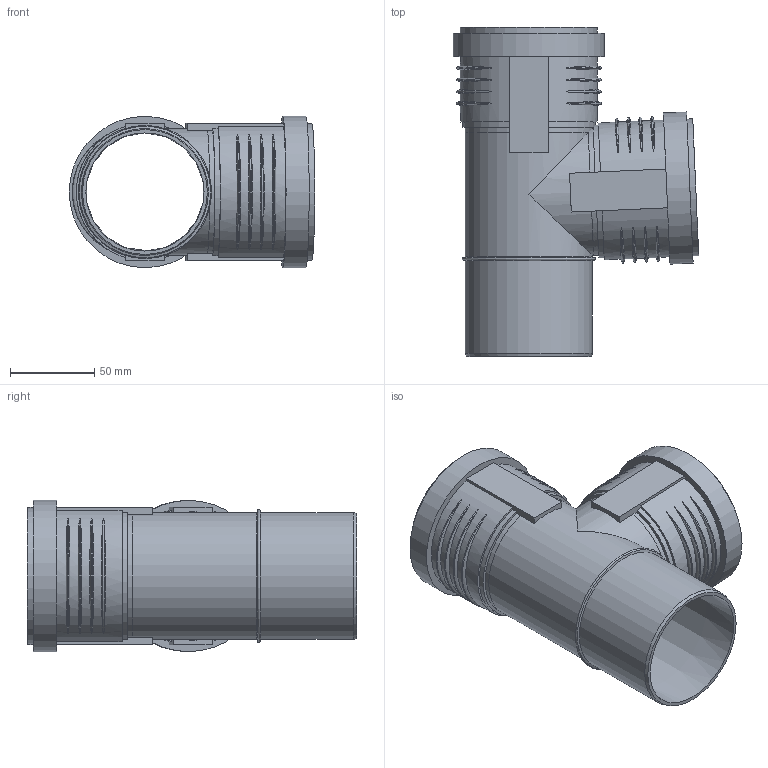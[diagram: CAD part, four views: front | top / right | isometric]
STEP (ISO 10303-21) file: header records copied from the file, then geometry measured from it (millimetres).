
FILE_DESCRIPTION(/* description */ (''),/* implementation_level */ '2;1');
FILE_NAME(/* name */ 'Z:\Geberit\Export\NewStep\390349.stp',/* time_stamp */ '2014-04-02T08:12:02+02:00',/* author */ ('ML'),/* organization */ (''),/* preprocessor_version */ 'ST-DEVELOPER v15.2',/* originating_system */ 'Autodesk Inventor 2014',/* authorisation */ '');
FILE_SCHEMA (('AUTOMOTIVE_DESIGN { 1 0 10303 214 3 1 1 }'));
Length unit declared in the file: millimetre
Products named in the file (4): 861355; 861402; 861402_1; 390349
Bounding box: 145.38 x 194.9 x 89.6 mm (x, y, z)
Volume: 178170.1 mm3; surface area: 144227.4 mm2
Topology: 3 solids, 3 shells, 124 faces, 306 edges, 214 vertices
Faces by surface type: torus 50, plane 37, cylinder 30, cone 7
Full cylindrical faces by diameter (mm): 70 x1, 70.2 x2, 75.2 x5, 76.2 x4, 81.2 x2, 84.6 x2, 89.6 x2
Entity records: 5131 total; most frequent: CARTESIAN_POINT 2210, ORIENTED_EDGE 538, DIRECTION 532, EDGE_CURVE 269, AXIS2_PLACEMENT_3D 230, VERTEX_POINT 204, EDGE_LOOP 185, STYLED_ITEM 124
